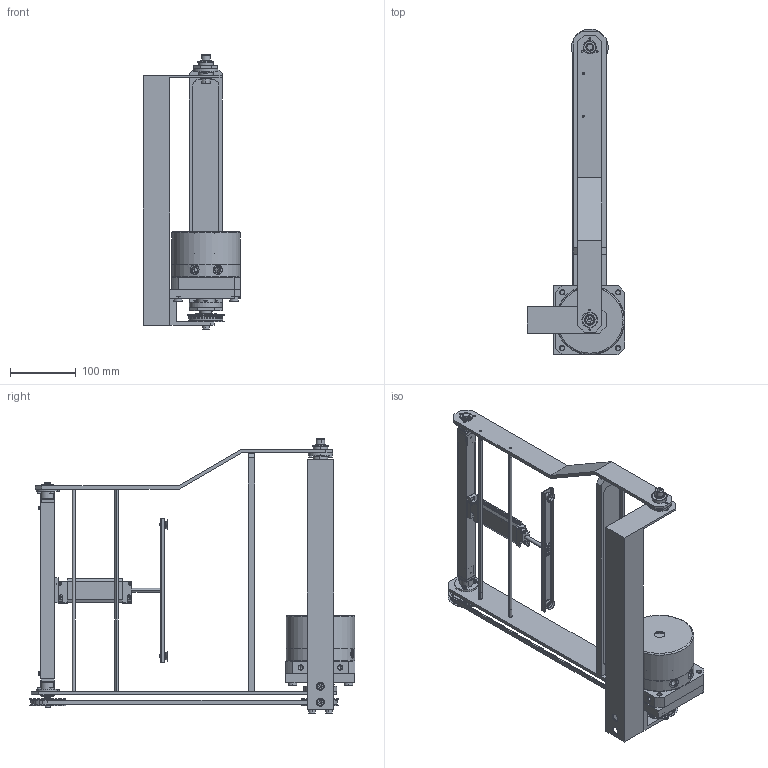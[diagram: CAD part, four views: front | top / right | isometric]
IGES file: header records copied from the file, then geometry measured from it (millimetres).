
Global section: file name: No Iges File Name specified; native system: Autodesk Inventor 2011; preprocessor: AutoDesk Inventor Iges Exporter R2011; author: eric; date: 20110213.141307; units: millimetre
Bounding box: 148 x 495.5 x 417.42 mm (x, y, z)
Volume: 1256933.4 mm3; surface area: 583547.8 mm2
Topology: 65 solids, 65 shells, 2817 faces, 7271 edges, 4611 vertices
Faces by surface type: plane 1647, revolution 541, cylinder 358, bspline 129, cone 86, torus 56
